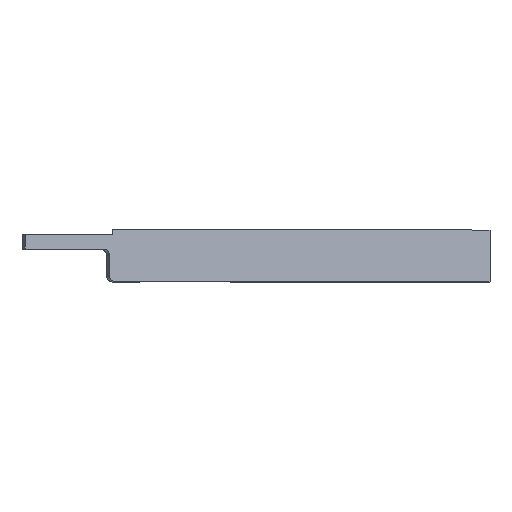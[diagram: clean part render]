
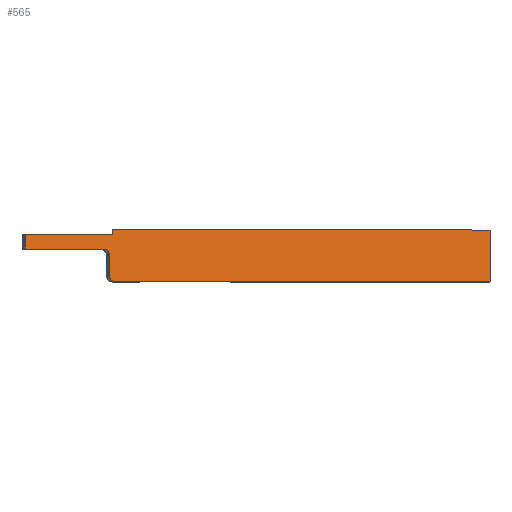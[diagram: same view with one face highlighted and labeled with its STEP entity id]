
A CAD part, top view. The second image highlights one B-rep face of the part: STEP entity #565.
In plain terms, the highlighted planar face has unit normal (0.5, 0, 0.866) as drawn and (0, 0, 1) by its records, which use the part's own axes.
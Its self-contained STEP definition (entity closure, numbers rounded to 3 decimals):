
#16 = CARTESIAN_POINT ( 'NONE',  ( -413.016, 0., 0. ) ) ;
#56 = EDGE_CURVE ( 'NONE', #1941, #3110, #179, .T. ) ;
#90 = CARTESIAN_POINT ( 'NONE',  ( -75., 35., 0. ) ) ;
#93 = DIRECTION ( 'NONE',  ( -1., 0., 0. ) ) ;
#132 = EDGE_LOOP ( 'NONE', ( #1805, #1909, #587, #927, #968, #1012, #2776, #1154, #3145, #1030 ) ) ;
#147 = CARTESIAN_POINT ( 'NONE',  ( -77.942, 4., 0. ) ) ;
#179 = LINE ( 'NONE', #147, #3644 ) ;
#186 = LINE ( 'NONE', #3451, #764 ) ;
#190 = DIRECTION ( 'NONE',  ( 0., 0., -1. ) ) ;
#238 = LINE ( 'NONE', #3431, #788 ) ;
#250 = CARTESIAN_POINT ( 'NONE',  ( 0., 4., 0. ) ) ;
#371 = VECTOR ( 'NONE', #1685, 1000. ) ;
#467 = EDGE_CURVE ( 'NONE', #3283, #1941, #2209, .T. ) ;
#485 = EDGE_CURVE ( 'NONE', #2576, #2050, #667, .T. ) ;
#507 = CARTESIAN_POINT ( 'NONE',  ( -77.942, 4., 0. ) ) ;
#519 = LINE ( 'NONE', #2558, #561 ) ;
#561 = VECTOR ( 'NONE', #3419, 1000. ) ;
#565 = ADVANCED_FACE ( 'NONE', ( #2116 ), #3094, .F. ) ;
#587 = ORIENTED_EDGE ( 'NONE', *, *, #3525, .F. ) ;
#667 = CIRCLE ( 'NONE', #1074, 5. ) ;
#755 = DIRECTION ( 'NONE',  ( -1., 0., 0. ) ) ;
#764 = VECTOR ( 'NONE', #1383, 1000. ) ;
#765 = DIRECTION ( 'NONE',  ( 0., -1., 0. ) ) ;
#788 = VECTOR ( 'NONE', #765, 1000. ) ;
#810 = VERTEX_POINT ( 'NONE', #2909 ) ;
#865 = CIRCLE ( 'NONE', #3619, 5. ) ;
#927 = ORIENTED_EDGE ( 'NONE', *, *, #1719, .T. ) ;
#944 = CARTESIAN_POINT ( 'NONE',  ( -80., 35., 0. ) ) ;
#960 = VECTOR ( 'NONE', #2245, 1000. ) ;
#968 = ORIENTED_EDGE ( 'NONE', *, *, #3656, .T. ) ;
#1012 = ORIENTED_EDGE ( 'NONE', *, *, #1765, .F. ) ;
#1030 = ORIENTED_EDGE ( 'NONE', *, *, #485, .T. ) ;
#1074 = AXIS2_PLACEMENT_3D ( 'NONE', #2827, #190, #93 ) ;
#1099 = CARTESIAN_POINT ( 'NONE',  ( -413.016, 40., 0. ) ) ;
#1154 = ORIENTED_EDGE ( 'NONE', *, *, #467, .F. ) ;
#1213 = CARTESIAN_POINT ( 'NONE',  ( -77.942, 0., 0. ) ) ;
#1265 = DIRECTION ( 'NONE',  ( -1., 0., 0. ) ) ;
#1383 = DIRECTION ( 'NONE',  ( 1., 0., 0. ) ) ;
#1451 = CARTESIAN_POINT ( 'NONE',  ( -413.016, 40., 0. ) ) ;
#1535 = CARTESIAN_POINT ( 'NONE',  ( -413.016, 40., 0. ) ) ;
#1550 = CARTESIAN_POINT ( 'NONE',  ( 0., 15., 0. ) ) ;
#1615 = CARTESIAN_POINT ( 'NONE',  ( -70., 15., 0. ) ) ;
#1661 = LINE ( 'NONE', #1451, #3065 ) ;
#1685 = DIRECTION ( 'NONE',  ( 0., -1., 0. ) ) ;
#1705 = CARTESIAN_POINT ( 'NONE',  ( -413.016, 40., 0. ) ) ;
#1719 = EDGE_CURVE ( 'NONE', #2326, #1977, #3127, .T. ) ;
#1765 = EDGE_CURVE ( 'NONE', #3110, #2890, #238, .T. ) ;
#1805 = ORIENTED_EDGE ( 'NONE', *, *, #2381, .F. ) ;
#1909 = ORIENTED_EDGE ( 'NONE', *, *, #3661, .T. ) ;
#1913 = CARTESIAN_POINT ( 'NONE',  ( 0., 40., 0. ) ) ;
#1941 = VERTEX_POINT ( 'NONE', #250 ) ;
#1977 = VERTEX_POINT ( 'NONE', #16 ) ;
#2050 = VERTEX_POINT ( 'NONE', #2888 ) ;
#2090 = DIRECTION ( 'NONE',  ( 0., 0., 1. ) ) ;
#2116 = FACE_OUTER_BOUND ( 'NONE', #132, .T. ) ;
#2209 = LINE ( 'NONE', #1913, #960 ) ;
#2245 = DIRECTION ( 'NONE',  ( 0., -1., 0. ) ) ;
#2326 = VERTEX_POINT ( 'NONE', #1099 ) ;
#2381 = EDGE_CURVE ( 'NONE', #3225, #2050, #519, .T. ) ;
#2522 = DIRECTION ( 'NONE',  ( 0., 0., -1. ) ) ;
#2558 = CARTESIAN_POINT ( 'NONE',  ( -75., 40., 0. ) ) ;
#2559 = DIRECTION ( 'NONE',  ( 1., 0., 0. ) ) ;
#2576 = VERTEX_POINT ( 'NONE', #1615 ) ;
#2776 = ORIENTED_EDGE ( 'NONE', *, *, #56, .F. ) ;
#2793 = EDGE_CURVE ( 'NONE', #2576, #3283, #186, .T. ) ;
#2827 = CARTESIAN_POINT ( 'NONE',  ( -70., 20., 0. ) ) ;
#2888 = CARTESIAN_POINT ( 'NONE',  ( -75., 20., 0. ) ) ;
#2890 = VERTEX_POINT ( 'NONE', #1213 ) ;
#2909 = CARTESIAN_POINT ( 'NONE',  ( -80., 40., 0. ) ) ;
#2923 = DIRECTION ( 'NONE',  ( -1., 0., 0. ) ) ;
#3065 = VECTOR ( 'NONE', #2559, 1000. ) ;
#3094 = PLANE ( 'NONE',  #3408 ) ;
#3110 = VERTEX_POINT ( 'NONE', #507 ) ;
#3127 = LINE ( 'NONE', #1705, #371 ) ;
#3145 = ORIENTED_EDGE ( 'NONE', *, *, #2793, .F. ) ;
#3225 = VERTEX_POINT ( 'NONE', #90 ) ;
#3282 = LINE ( 'NONE', #3518, #3310 ) ;
#3283 = VERTEX_POINT ( 'NONE', #1550 ) ;
#3310 = VECTOR ( 'NONE', #3553, 1000. ) ;
#3408 = AXIS2_PLACEMENT_3D ( 'NONE', #1535, #2522, #755 ) ;
#3419 = DIRECTION ( 'NONE',  ( 0., -1., 0. ) ) ;
#3431 = CARTESIAN_POINT ( 'NONE',  ( -77.942, 4., 0. ) ) ;
#3451 = CARTESIAN_POINT ( 'NONE',  ( 0., 15., 0. ) ) ;
#3518 = CARTESIAN_POINT ( 'NONE',  ( -413.016, 0., 0. ) ) ;
#3525 = EDGE_CURVE ( 'NONE', #2326, #810, #1661, .T. ) ;
#3553 = DIRECTION ( 'NONE',  ( 1., 0., 0. ) ) ;
#3619 = AXIS2_PLACEMENT_3D ( 'NONE', #944, #2090, #2923 ) ;
#3644 = VECTOR ( 'NONE', #1265, 1000. ) ;
#3656 = EDGE_CURVE ( 'NONE', #1977, #2890, #3282, .T. ) ;
#3661 = EDGE_CURVE ( 'NONE', #3225, #810, #865, .T. ) ;
